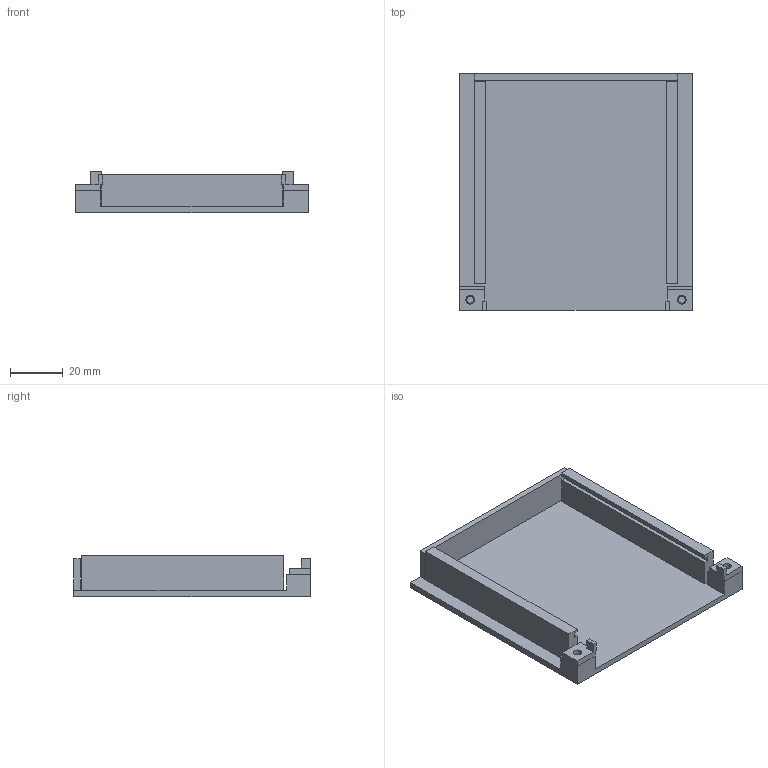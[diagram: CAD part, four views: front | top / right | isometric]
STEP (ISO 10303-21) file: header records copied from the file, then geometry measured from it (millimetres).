
FILE_DESCRIPTION(('Open CASCADE Model'),'2;1');
FILE_NAME('Open CASCADE Shape Model','2026-10-06T09:51:01',('Author'),( 'Open CASCADE'),'Open CASCADE STEP processor 7.9','Open CASCADE 7.9' ,'Unknown');
FILE_SCHEMA(('AUTOMOTIVE_DESIGN { 1 0 10303 214 1 1 1 1 }'));
Length unit declared in the file: millimetre
Products named in the file (4): Nucleo_edge_tray_with_stops; Tray; Stop_left; Stop_right
Assembly tree (3 placements, depth 2):
  Nucleo_edge_tray_with_stops
    Tray
    Stop_left
    Stop_right
Bounding box: 88 x 89.5 x 15.6 mm (x, y, z)
Volume: 30827.2 mm3; surface area: 24264.6 mm2
Topology: 3 solids, 3 shells, 62 faces, 156 edges, 104 vertices
Faces by surface type: plane 58, cylinder 4
Full cylindrical faces by diameter (mm): 2.7 x2, 3.3 x2
Entity records: 3876 total; most frequent: CARTESIAN_POINT 686, DIRECTION 560, LINE 404, VECTOR 404, ORIENTED_EDGE 312, PCURVE 312, DEFINITIONAL_REPRESENTATION 312, EDGE_CURVE 156
